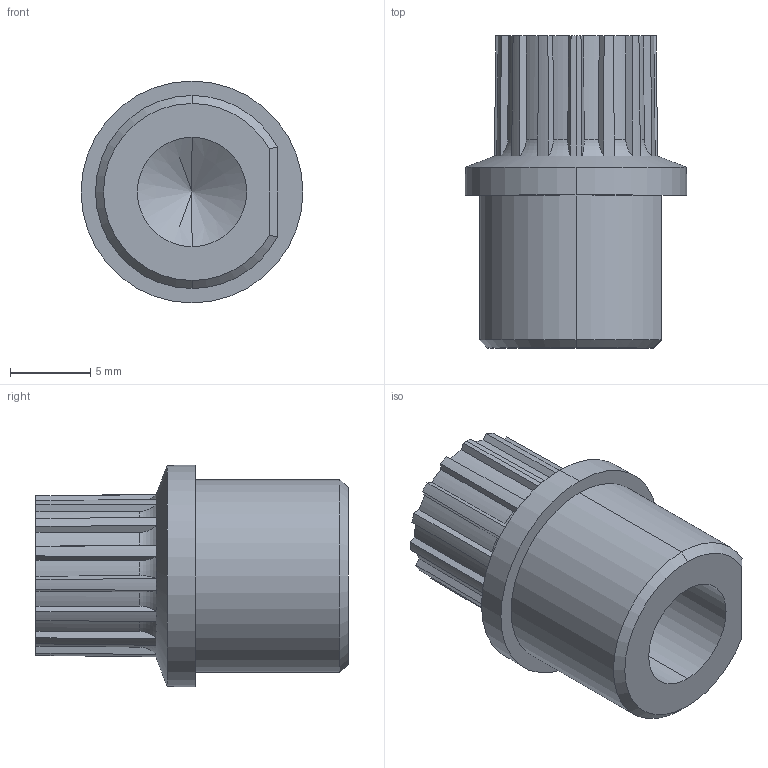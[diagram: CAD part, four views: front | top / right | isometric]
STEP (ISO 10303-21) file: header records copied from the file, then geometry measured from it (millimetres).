
FILE_DESCRIPTION (( 'STEP AP214' ), '1' );
FILE_NAME ('insert s.STEP', '2025-12-07T06:41:40', ( '' ), ( '' ), 'SwSTEP 2.0', 'SolidWorks 2022', '' );
FILE_SCHEMA (( 'AUTOMOTIVE_DESIGN' ));
Length unit declared in the file: millimetre
Products named in the file (1): insert s
Bounding box: 13.79 x 19.39 x 13.79 mm (x, y, z)
Volume: 1390.5 mm3; surface area: 1299 mm2
Topology: 1 solids, 1 shells, 96 faces, 239 edges, 145 vertices
Faces by surface type: cone 40, plane 35, torus 16, cylinder 5
Entity records: 3094 total; most frequent: CARTESIAN_POINT 875, ORIENTED_EDGE 474, DIRECTION 436, EDGE_CURVE 237, AXIS2_PLACEMENT_3D 194, VERTEX_POINT 145, EDGE_LOOP 98, CIRCLE 97
